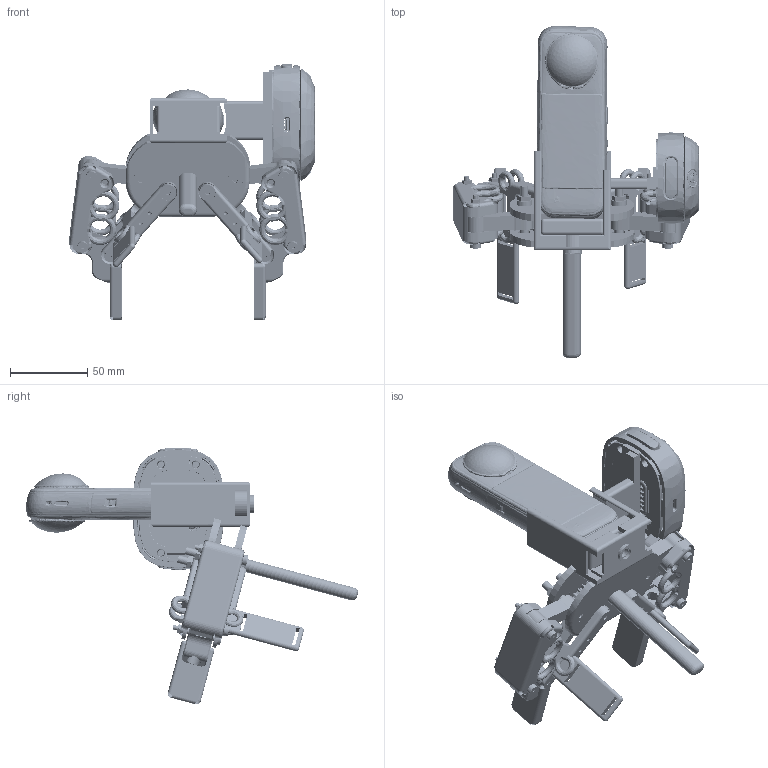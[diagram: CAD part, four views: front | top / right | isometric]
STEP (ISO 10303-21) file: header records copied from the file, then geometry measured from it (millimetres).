
FILE_DESCRIPTION(('Open CASCADE Model'),'2;1');
FILE_NAME('Open CASCADE Shape Model','2026-11-14T12:11:19',('Author'),( 'Open CASCADE'),'Open CASCADE STEP processor 8.0','Open CASCADE 8.0' ,'Unknown');
FILE_SCHEMA(('AUTOMOTIVE_DESIGN { 1 0 10303 214 1 1 1 1 }'));
Length unit declared in the file: millimetre
Products named in the file (50): genumi-robotiq-2f85; Handheld Body; Left Drive Gear and Connector; Left Proximal Finger Link; Left Finger Frame Link; Left Finger Link Bar; Left Distal Finger Link; Left Fingertip Pad; Right Drive Gear and Connector; Right Proximal Finger Link; Right Finger Frame Link; Right Finger Link Bar; Right Distal Finger Link; Right Fingertip Pad; Left Inner Chassis Retaining Nut; Left Inner Chassis Retaining Washer; Right Inner Chassis Retaining Nut; Right Inner Chassis Retaining Washer; Left Frame and Bar Shoulder Screw; Left Frame and Bar Retaining Nut; Left Frame and Bar Retaining Washer; Right Frame and Bar Shoulder Screw; Right Frame and Bar Retaining Nut; Right Frame and Bar Retaining Washer; Left Distal Inner Retaining Nut; Left Distal Inner Retaining Washer; Left Distal Outer Shoulder Screw; Left Distal Outer Retaining Nut; Left Distal Outer Retaining Washer; Left Distal Outer Head Shim; Right Distal Inner Retaining Nut; Right Distal Inner Retaining Washer; Right Distal Outer Shoulder Screw; Right Distal Outer Retaining Nut; Right Distal Outer Retaining Washer; Right Distal Outer Head Shim; Left Outer Chassis Countersunk Shoulder Screw; Left Outer Chassis Retaining Washer; Left Outer Chassis Retaining Nut; Right Outer Chassis Countersunk Shoulder Screw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
Assembly tree (49 placements, depth 2):
  genumi-robotiq-2f85
    Handheld Body
    Left Drive Gear and Connector
    Left Proximal Finger Link
    Left Finger Frame Link
    Left Finger Link Bar
    Left Distal Finger Link
    Left Fingertip Pad
    Right Drive Gear and Connector
    Right Proximal Finger Link
    Right Finger Frame Link
    Right Finger Link Bar
    Right Distal Finger Link
    Right Fingertip Pad
    Left Inner Chassis Retaining Nut
    Left Inner Chassis Retaining Washer
    Right Inner Chassis Retaining Nut
    Right Inner Chassis Retaining Washer
    Left Frame and Bar Shoulder Screw
    Left Frame and Bar Retaining Nut
    Left Frame and Bar Retaining Washer
    Right Frame and Bar Shoulder Screw
    Right Frame and Bar Retaining Nut
    Right Frame and Bar Retaining Washer
    Left Distal Inner Retaining Nut
    Left Distal Inner Retaining Washer
    Left Distal Outer Shoulder Screw
    Left Distal Outer Retaining Nut
    Left Distal Outer Retaining Washer
    Left Distal Outer Head Shim
    Right Distal Inner Retaining Nut
    Right Distal Inner Retaining Washer
    Right Distal Outer Shoulder Screw
    Right Distal Outer Retaining Nut
    Right Distal Outer Retaining Washer
    Right Distal Outer Head Shim
    Left Outer Chassis Countersunk Shoulder Screw
    Left Outer Chassis Retaining Washer
    Left Outer Chassis Retaining Nut
    Right Outer Chassis Countersunk Shoulder Screw
    Right Outer Chassis Retaining Washer
    Right Outer Chassis Retaining Nut
    Left Inner Chassis Countersunk Shoulder Screw
    Right Inner Chassis Countersunk Shoulder Screw
    Left Distal Inner Countersunk Shoulder Screw
    Right Distal Inner Countersunk Shoulder Screw
    Open CASCADE STEP translator 8.0 4.1
    insta360-x5-camera
    insta360-magnetic-quick-release-display-envelope
    htc-vive-ultimate-tracker
Bounding box: 158.3 x 214.41 x 165.87 mm (x, y, z)
Volume: 269991.5 mm3; surface area: 158312.4 mm2
Topology: 51 solids, 117 shells, 13929 faces, 25583 edges, 11774 vertices
Faces by surface type: bspline 10381, plane 1928, cylinder 1193, cone 134, torus 108, revolution 78, sphere 56, extrusion 51
Full cylindrical faces by diameter (mm): 2 x4, 2.5 x8, 3 x12, 3.2 x6, 4 x6, 4.2 x22, 4.4 x2, 5 x14, 5.3 x2, 5.4 x2, 5.5 x4, 6 x16, 6.2 x2, 6.4 x8, 6.5 x2, 6.6 x4, 7 x6, 7.07 x2, 8 x3, 9 x2, 10 x2, 10.5 x2, 10.57 x2, 11 x4, 12 x1, 14 x6, 18 x1
Entity records: 705581 total; most frequent: CARTESIAN_POINT 297571, ORIENTED_EDGE 50226, PCURVE 49822, DEFINITIONAL_REPRESENTATION 49822, B_SPLINE_CURVE_WITH_KNOTS 49645, DIRECTION 34991, EDGE_CURVE 25491, SURFACE_CURVE 24997
